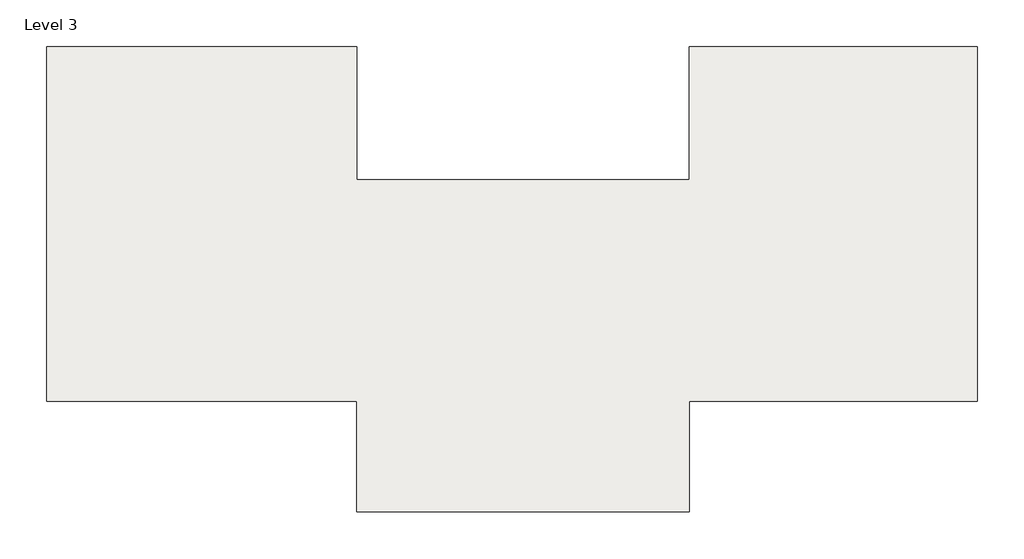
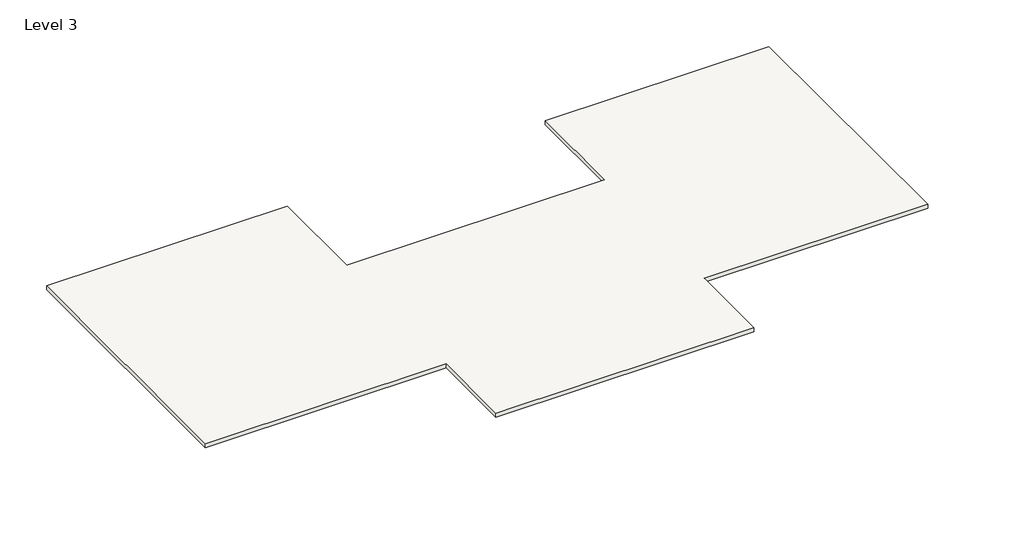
# One storey: 1 slab.
"""IFC4 building model written with IfcOpenShell, lengths in millimetres."""

from ifc_helpers import new_model, si_unit, frame, origin, place, context, project, spatial, polyline, outline, extrude, element, save

model = new_model("IFC4")

# Units and contexts
model_context = context("Model", 3, world=origin())
ifc_project = project(units=[si_unit("LENGTHUNIT", "METRE", prefix="MILLI")], contexts=[model_context])

# Site, building, storey
site = spatial("IfcSite", under=ifc_project)
building = spatial("IfcBuilding", under=site)
storey = spatial("IfcBuildingStorey", under=building, Name="Level 3", Elevation=6096.0)

# Slab
placement = place(None, origin())
element("IfcSlab", 1, ObjectType="Generic - 12\"", at=placement, inside=storey, context=model_context, shape_type="SweptSolid", body=[
    extrude(outline(polyline([(2876.9647544, 10145.5659381), (2876.9647544, 2830.3659381), (21164.9647544, 2830.3659381), (21164.9647544, 10145.5659381), (37014.5647544, 10145.5659381), (37014.5647544, -9361.6340619), (21164.9647544, -9361.6340619), (21164.9647544, -15457.6340619), (2876.9647544, -15457.6340619), (2876.9647544, -9361.6340619), (-14191.8352456, -9361.6340619), (-14191.8352456, 10145.5659381), (2876.9647544, 10145.5659381)])), frame((0.0, 0.0, 5791.2), z_axis=(0.0, 0.0, 1.0), x_axis=(1.0, 0.0, 0.0)), (0.0, 0.0, 1.0), 304.8),
])

save(model, "model.ifc")
